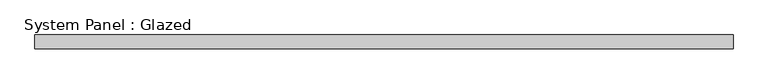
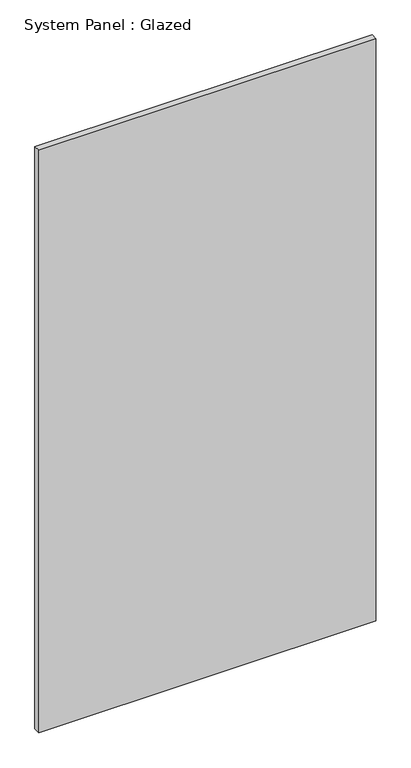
"""IFC4 building model written with IfcOpenShell, lengths in millimetres: plate geometry, System Panel : Glazed."""

from ifc_helpers import new_model, si_unit, origin, origin_with_axes, place, context, project, spatial, polyline, outline, extrude, source, transform, mapped, element, save


def system_panel_glazed_6caac039(model_context):
    return source(origin(), model_context, "Body", "SweptSolid", [
        extrude(outline(polyline([(641.35, 19.05), (-641.35, 19.05), (-641.35, 44.45), (641.35, 44.45), (641.35, 19.05)])), origin_with_axes(), (0.0, 0.0, 1.0), 2343.15),
    ])


if __name__ == "__main__":
    model = new_model("IFC4")
    model_context = context("Model", 3, world=origin())
    ifc_project = project(units=[si_unit("LENGTHUNIT", "METRE", prefix="MILLI")], contexts=[model_context])
    site = spatial("IfcSite", under=ifc_project)
    building = spatial("IfcBuilding", under=site)
    placement = place(None, origin())
    system_panel_glazed_shape = system_panel_glazed_6caac039(model_context)
    element("IfcPlate", 1, ObjectType="System Panel : Glazed", at=placement, inside=building, context=model_context, shape_type="MappedRepresentation", body=[
        mapped(system_panel_glazed_shape, transform((0.0, 0.0, 0.0), x_axis=(1.0, 0.0, 0.0), y_axis=(0.0, 1.0, 0.0), z_axis=(0.0, 0.0, 1.0))),
    ])
    save(model, "model.ifc")
